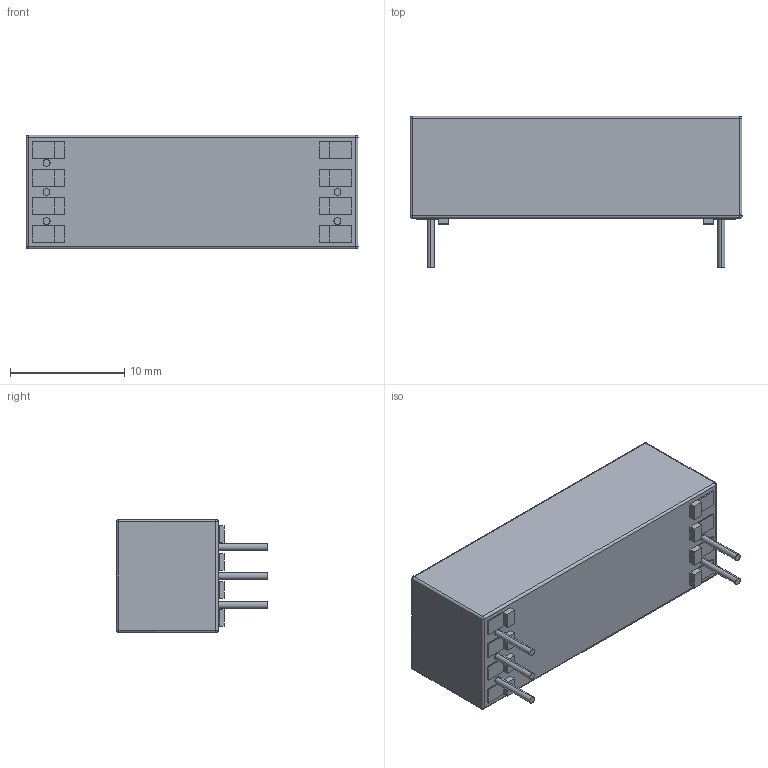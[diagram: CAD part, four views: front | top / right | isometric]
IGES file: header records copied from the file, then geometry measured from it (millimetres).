
Start section: SolidWorks IGES file using analytic representation for surfaces
Global section: file name: T:\Relays in Solidworks\Batch 4\80-1-C.IGS; native system: SolidWorks 2009; preprocessor: SolidWorks 2009; author: alex.leming; date: 100629.161909; units: millimetre
Bounding box: 29 x 13.2 x 9.9 mm (x, y, z)
Surface area: 1311.7 mm2 (no closed solid volume)
Topology: 0 solids, 0 shells, 726 faces, 7323 edges, 7317 vertices
Faces by surface type: bspline 690, revolution 36
